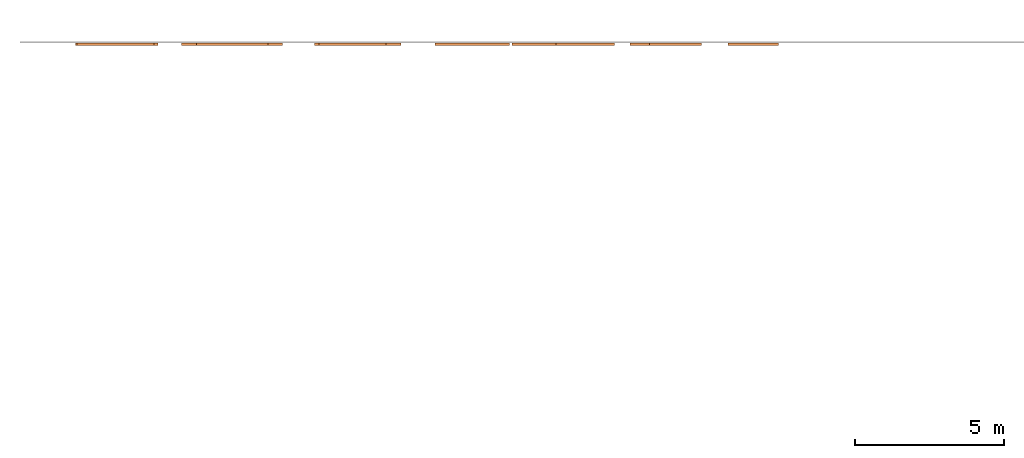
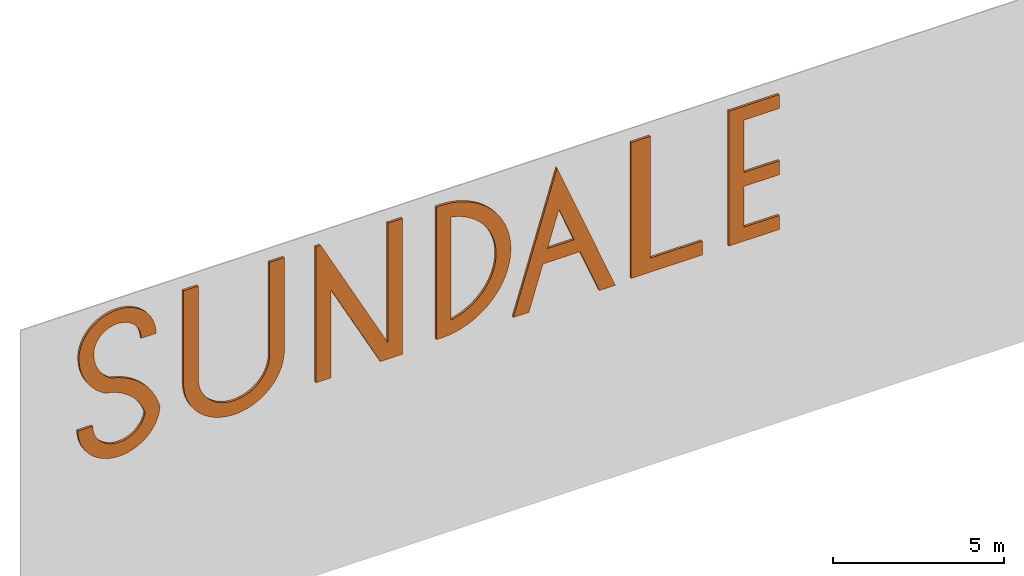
# One storey, part 2 of 2: 1 proxy.
"""IFC2X3 building model written with IfcOpenShell, lengths in millimetres."""

from ifc_helpers import new_model, entity, si_unit, converted_unit, derived_unit, direction, frame, frame_2d, origin, place, context, subcontext, project, spatial, polyline, circle_curve, parameter, trimmed, segment, composite_curve, outline, extrude, source, transform, mapped, material, type_object, type_shapes, element, save


model = new_model("IFC2X3")

# Units and contexts
model_context = context("Model", 3, precision=0.01, world=origin(), true_north=direction((4.05803320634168e-15, -1.0)))
body_context = subcontext(model_context, "Body", "Model", "MODEL_VIEW")
ifc_project = project(units=[si_unit("LENGTHUNIT", "METRE", prefix="MILLI"), si_unit("AREAUNIT", "SQUARE_METRE"), si_unit("VOLUMEUNIT", "CUBIC_METRE"), converted_unit("PLANEANGLEUNIT", "DEGREE", entity("IfcRatioMeasure", 0.0174532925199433), si_unit("PLANEANGLEUNIT", "RADIAN"), dimensions=[0, 0, 0, 0, 0, 0, 0]), si_unit("MASSUNIT", "GRAM", prefix="KILO"), derived_unit("MASSDENSITYUNIT", [(si_unit("MASSUNIT", "GRAM", prefix="KILO"), 1), (si_unit("LENGTHUNIT", "METRE"), -3)]), si_unit("TIMEUNIT", "SECOND"), si_unit("FREQUENCYUNIT", "HERTZ"), si_unit("THERMODYNAMICTEMPERATUREUNIT", "DEGREE_CELSIUS"), derived_unit("THERMALTRANSMITTANCEUNIT", [(si_unit("MASSUNIT", "GRAM", prefix="KILO"), 1), (si_unit("THERMODYNAMICTEMPERATUREUNIT", "KELVIN"), -1), (si_unit("TIMEUNIT", "SECOND"), -3)]), derived_unit("VOLUMETRICFLOWRATEUNIT", [(si_unit("LENGTHUNIT", "METRE"), 3), (si_unit("TIMEUNIT", "SECOND"), -1)]), si_unit("ELECTRICCURRENTUNIT", "AMPERE"), si_unit("ELECTRICVOLTAGEUNIT", "VOLT"), si_unit("POWERUNIT", "WATT"), si_unit("FORCEUNIT", "NEWTON", prefix="KILO"), si_unit("ILLUMINANCEUNIT", "LUX"), si_unit("LUMINOUSFLUXUNIT", "LUMEN"), si_unit("LUMINOUSINTENSITYUNIT", "CANDELA"), derived_unit("USERDEFINED", [(si_unit("MASSUNIT", "GRAM", prefix="KILO"), -1), (si_unit("LENGTHUNIT", "METRE"), -2), (si_unit("TIMEUNIT", "SECOND"), 3), (si_unit("LUMINOUSFLUXUNIT", "LUMEN"), 1)]), derived_unit("LINEARVELOCITYUNIT", [(si_unit("LENGTHUNIT", "METRE"), 1), (si_unit("TIMEUNIT", "SECOND"), -1)]), si_unit("PRESSUREUNIT", "PASCAL"), derived_unit("USERDEFINED", [(si_unit("LENGTHUNIT", "METRE"), -2), (si_unit("MASSUNIT", "GRAM", prefix="KILO"), 1), (si_unit("TIMEUNIT", "SECOND"), -2)])], contexts=[model_context])

# Site, building, storey
site_placement = place(None, frame((927466.849349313, 583801.882853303, 0.0), z_axis=(0.0, 0.0, 1.0), x_axis=(-1.0, 0.0, 0.0)))
site = spatial("IfcSite", under=ifc_project, at=site_placement, Name="Surface", CompositionType="ELEMENT")
building_placement = place(site_placement, origin())
building = spatial("IfcBuilding", under=site, at=building_placement, CompositionType="ELEMENT")
storey_placement = place(building_placement, frame((0.0, 0.0, 50170.0)))
storey = spatial("IfcBuildingStorey", under=building, at=storey_placement, Name="Ceiling 6000", CompositionType="ELEMENT", Elevation=50170.0)

# Proxy
ifc_material = material(Name="Aluminum, Anodized Silver")
building_element_proxy_type = type_object("IfcBuildingElementProxyType", Name="Generic Models 23", PredefinedType="NOTDEFINED", material=ifc_material)
shared_shape = source(origin(), body_context, "Body", "SweptSolid", [
    extrude(outline(composite_curve([segment(polyline([(-1654.22290808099, -1200.0), (-1654.22290808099, -1700.0)]), True, "CONTINUOUS"), segment(polyline([(-1654.22290808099, -1700.0), (1654.22290808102, -1700.0)]), True, "CONTINUOUS"), segment(trimmed(circle_curve(frame_2d((1654.22290808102, 0.0), x_axis=(0.0, -1.0)), 1700.00000000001), [parameter(3.05333249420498e-13)], [parameter(180.0)], True, "PARAMETER"), True, "CONTINUOUS"), segment(polyline([(1654.22290808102, 1700.0), (-1654.22290808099, 1700.0)]), True, "CONTINUOUS"), segment(polyline([(-1654.22290808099, 1700.0), (-1654.22290808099, 1200.0)]), True, "CONTINUOUS"), segment(polyline([(-1654.22290808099, 1200.0), (1654.22290808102, 1200.0)]), True, "CONTINUOUS"), segment(trimmed(circle_curve(frame_2d((1654.22290808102, 0.0), x_axis=(0.0, -1.0)), 1200.00000000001), [parameter(0.0)], [parameter(180.0)], True, "PARAMETER"), False, "CONTINUOUS"), segment(polyline([(1654.22290808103, -1200.0), (-1654.22290808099, -1200.0)]), True, "CONTINUOUS")], self_intersect=False)), frame((-51776.5821543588, 12101.4058517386, 54313.3595806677), z_axis=(0.0, -1.0, 0.0), x_axis=(0.0, 0.0, -1.0)), (0.0, 0.0, -1.0), 80.7651869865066),
    extrude(outline(polyline([(-1781.6718568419, -1383.33333333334), (-1281.67185684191, -1383.33333333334), (-1281.6718568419, 366.666666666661), (3063.34371368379, 366.666666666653), (3063.34371368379, 1016.66666666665), (-1781.6718568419, 1016.66666666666), (-1781.6718568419, -1383.33333333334)])), frame((-66187.8079325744, 12101.4058517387, 52904.2387750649), z_axis=(0.0, 1.0, 0.0), x_axis=(0.0, 0.0, 1.0)), (0.0, 0.0, 1.0), 80.7651869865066),
    extrude(outline(composite_curve([segment(trimmed(circle_curve(frame_2d((520.237750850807, -1307.97025194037), x_axis=(1.0, 0.0)), 1776.34559672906), [parameter(119.781364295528)], [parameter(180.0)], True, "PARAMETER"), True, "CONTINUOUS"), segment(trimmed(circle_curve(frame_2d((43.8921541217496, -1307.97025194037), x_axis=(1.0, 0.0)), 1300.0), [parameter(180.0)], [parameter(359.999999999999)], True, "PARAMETER"), True, "CONTINUOUS"), segment(polyline([(1343.89215412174, -1307.97025194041), (843.89215412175, -1307.97025194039)]), True, "CONTINUOUS"), segment(trimmed(circle_curve(frame_2d((43.8921541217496, -1307.97025194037), x_axis=(1.0, 0.0)), 799.999999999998), [parameter(180.0)], [parameter(359.999999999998)], True, "PARAMETER"), False, "CONTINUOUS"), segment(trimmed(circle_curve(frame_2d((520.237750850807, -1307.97025194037), x_axis=(1.0, 0.0)), 1276.34559672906), [parameter(123.340210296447)], [parameter(180.0)], True, "PARAMETER"), False, "CONTINUOUS"), segment(trimmed(circle_curve(frame_2d((-613.362412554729, 1872.60771573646), x_axis=(1.0, 0.0)), 2157.99544060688), [parameter(281.55077184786)], [parameter(345.923206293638)], True, "PARAMETER"), True, "CONTINUOUS"), segment(trimmed(circle_curve(frame_2d((95.4375684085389, 1251.60527147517), x_axis=(1.0, 0.0)), 1387.7257166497), [parameter(3.97215693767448)], [parameter(180.0)], True, "PARAMETER"), True, "CONTINUOUS"), segment(polyline([(-1292.28814824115, 1251.60527147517), (-792.288148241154, 1251.60527147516)]), True, "CONTINUOUS"), segment(trimmed(circle_curve(frame_2d((95.4375684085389, 1251.60527147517), x_axis=(1.0, 0.0)), 887.725716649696), [parameter(8.89376303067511)], [parameter(180.0)], True, "PARAMETER"), False, "CONTINUOUS"), segment(trimmed(circle_curve(frame_2d((-613.362412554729, 1872.60771573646), x_axis=(1.0, 0.0)), 1657.99544060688), [parameter(278.71798067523)], [parameter(343.035895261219)], True, "PARAMETER"), False, "CONTINUOUS")], self_intersect=False)), frame((-47805.150175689, 12101.4058517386, 53468.7894164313), z_axis=(0.0, -1.0, 0.0), x_axis=(-1.0, 0.0, 0.0)), (0.0, 0.0, -1.0), 80.7651869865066),
    extrude(outline(polyline([(-2531.56963656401, -1018.79192093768), (-2531.56963656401, -1518.79192093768), (2313.44593396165, -1518.79192093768), (2313.44593396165, -772.392403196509), (-836.225615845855, 902.317666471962), (2313.44593396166, 902.317666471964), (2313.44593396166, 1402.31766647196), (-2533.12382040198, 1402.31766647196), (-2533.12382040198, 1238.28942105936), (1711.82879393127, -1018.79192093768), (-2531.56963656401, -1018.79192093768)])), frame((-55944.5017172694, 12101.4058517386, 53436.0128521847), z_axis=(0.0, -1.0, 0.0), x_axis=(0.0, 0.0, -1.0)), (0.0, 0.0, -1.0), 80.7651869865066),
    extrude(outline(composite_curve([segment(polyline([(-2360.07696471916, 0.0), (2360.07696471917, 0.0)]), True, "CONTINUOUS"), segment(trimmed(circle_curve(frame_2d((0.0, 150.0), x_axis=(0.0, 1.0)), 2364.83895422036), [parameter(266.363329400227)], [parameter(93.6366705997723)], True, "PARAMETER"), True, "CONTINUOUS")], self_intersect=False), holes=[composite_curve([segment(trimmed(circle_curve(frame_2d((0.0, 150.0), x_axis=(0.0, 1.0)), 1864.83895422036), [parameter(280.817642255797)], [parameter(79.1823577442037)], True, "PARAMETER"), False, "CONTINUOUS"), segment(polyline([(1831.69984582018, 500.0), (-1831.69984582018, 500.0)]), True, "CONTINUOUS")], self_intersect=False)]), frame((-58600.5917798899, 12101.4058517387, 53602.7435345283), z_axis=(0.0, 1.0, 0.0), x_axis=(0.0, 0.0, -1.0)), (0.0, 0.0, 1.0), 80.7651869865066),
    extrude(outline(polyline([(-3484.83089546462, -1256.62493413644), (1551.82396885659, -1256.62493413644), (1398.95862812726, -756.624934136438), (-228.195493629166, -756.624934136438), (-594.263755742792, 440.730399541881), (757.087034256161, 1535.0326925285), (599.420513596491, 2050.73664447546), (-3484.83089546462, -1256.62493413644)]), holes=[polyline([(-1013.35321552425, 101.358446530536), (-751.041371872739, -756.624934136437), (-2072.87445266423, -756.624934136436), (-1013.35321552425, 101.358446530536)])]), frame((-62856.0176000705, 12101.4058517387, 52239.1819858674), z_axis=(0.0, 1.0, 0.0), x_axis=(0.292371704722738, 0.0, -0.956304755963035)), (0.0, 0.0, 1.0), 80.7651869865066),
    extrude(outline(polyline([(-2474.74030042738, -1016.66666666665), (2337.37015021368, -1016.66666666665), (2337.37015021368, 683.333333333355), (1837.37015021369, 683.333333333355), (1837.37015021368, -516.66666666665), (387.370150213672, -516.666666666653), (387.37015021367, 683.333333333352), (-112.629849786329, 683.333333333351), (-112.629849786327, -516.666666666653), (-1974.74030042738, -516.666666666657), (-1974.74030042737, 683.333333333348), (-2474.74030042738, 683.333333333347), (-2474.74030042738, -1016.66666666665)])), frame((-69487.8079325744, 12101.4058517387, 53459.9370684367), z_axis=(0.0, 1.0, 0.0), x_axis=(0.0, 0.0, -1.0)), (0.0, 0.0, 1.0), 80.7651869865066),
])
type_shapes(building_element_proxy_type, [shared_shape])
proxy_placement = place(storey_placement, frame((0.0, 0.0, -50170.0)))
element("IfcBuildingElementProxy", 1, at=proxy_placement, inside=storey, type_object=building_element_proxy_type, material=ifc_material, Name="Generic Models 26:Generic Models 23", ObjectType="Generic Models 23", context=body_context, shape_type="MappedRepresentation", body=[
    mapped(shared_shape, transform((0.0, 0.0, 0.0), scale=1.0)),
])

save(model, "model.ifc")
